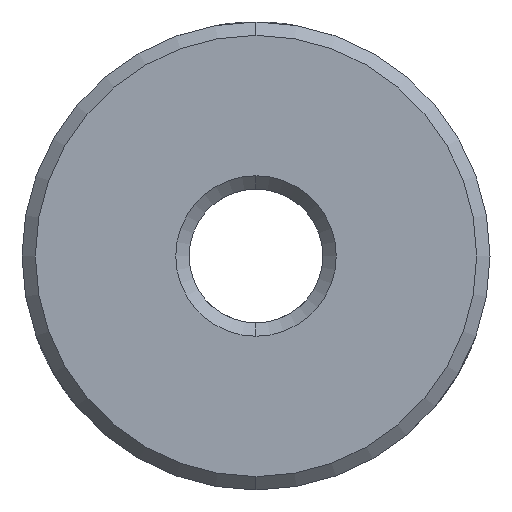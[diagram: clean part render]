
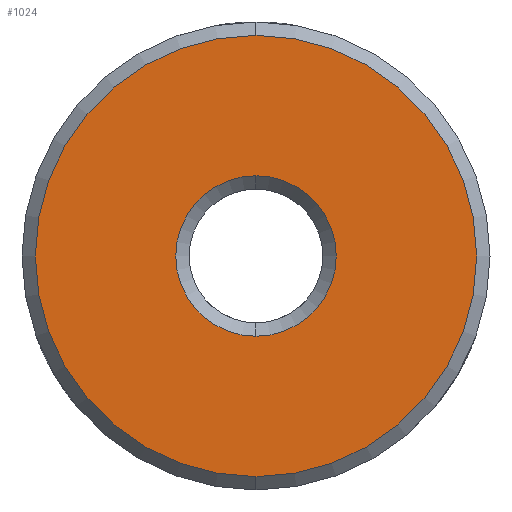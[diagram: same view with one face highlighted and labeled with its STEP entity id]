
A CAD part, left-side view. The second image highlights one B-rep face of the part: STEP entity #1024.
In plain terms, the highlighted planar face has unit normal (-1, 0, 0).
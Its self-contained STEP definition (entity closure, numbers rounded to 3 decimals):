
#61 = PLANE ( 'NONE',  #297 ) ;
#72 = CIRCLE ( 'NONE', #2207, 3. ) ;
#121 = DIRECTION ( 'NONE',  ( 0., 0., -1. ) ) ;
#179 = CARTESIAN_POINT ( 'NONE',  ( -14.25, 0., 0. ) ) ;
#188 = DIRECTION ( 'NONE',  ( 0., 0., -1. ) ) ;
#192 = DIRECTION ( 'NONE',  ( 0., 0., -1. ) ) ;
#253 = CARTESIAN_POINT ( 'NONE',  ( -14.25, 0., 0. ) ) ;
#283 = ORIENTED_EDGE ( 'NONE', *, *, #1341, .T. ) ;
#286 = DIRECTION ( 'NONE',  ( 1., 0., 0. ) ) ;
#297 = AXIS2_PLACEMENT_3D ( 'NONE', #1122, #1289, #192 ) ;
#374 = DIRECTION ( 'NONE',  ( 0., 0., -1. ) ) ;
#391 = CIRCLE ( 'NONE', #691, 3. ) ;
#451 = CARTESIAN_POINT ( 'NONE',  ( -14.25, 0., -8.25 ) ) ;
#555 = VERTEX_POINT ( 'NONE', #1202 ) ;
#583 = VERTEX_POINT ( 'NONE', #451 ) ;
#604 = DIRECTION ( 'NONE',  ( 1., 0., 0. ) ) ;
#633 = FACE_OUTER_BOUND ( 'NONE', #747, .T. ) ;
#648 = EDGE_CURVE ( 'NONE', #1263, #910, #72, .T. ) ;
#691 = AXIS2_PLACEMENT_3D ( 'NONE', #1022, #286, #121 ) ;
#747 = EDGE_LOOP ( 'NONE', ( #283, #1397 ) ) ;
#847 = EDGE_LOOP ( 'NONE', ( #1145, #2011 ) ) ;
#910 = VERTEX_POINT ( 'NONE', #2204 ) ;
#1022 = CARTESIAN_POINT ( 'NONE',  ( -14.25, 0., 0. ) ) ;
#1024 = ADVANCED_FACE ( 'NONE', ( #2056, #633 ), #61, .F. ) ;
#1122 = CARTESIAN_POINT ( 'NONE',  ( -14.25, 0., 0. ) ) ;
#1145 = ORIENTED_EDGE ( 'NONE', *, *, #648, .T. ) ;
#1202 = CARTESIAN_POINT ( 'NONE',  ( -14.25, 0., 8.25 ) ) ;
#1212 = EDGE_CURVE ( 'NONE', #910, #1263, #391, .T. ) ;
#1263 = VERTEX_POINT ( 'NONE', #1349 ) ;
#1289 = DIRECTION ( 'NONE',  ( 1., 0., 0. ) ) ;
#1341 = EDGE_CURVE ( 'NONE', #583, #555, #1579, .T. ) ;
#1349 = CARTESIAN_POINT ( 'NONE',  ( -14.25, 0., 3. ) ) ;
#1391 = AXIS2_PLACEMENT_3D ( 'NONE', #253, #1994, #188 ) ;
#1397 = ORIENTED_EDGE ( 'NONE', *, *, #1448, .T. ) ;
#1448 = EDGE_CURVE ( 'NONE', #555, #583, #1720, .T. ) ;
#1579 = CIRCLE ( 'NONE', #1851, 8.25 ) ;
#1707 = DIRECTION ( 'NONE',  ( 0., 0., -1. ) ) ;
#1720 = CIRCLE ( 'NONE', #1391, 8.25 ) ;
#1851 = AXIS2_PLACEMENT_3D ( 'NONE', #2099, #1911, #374 ) ;
#1911 = DIRECTION ( 'NONE',  ( -1., 0., 0. ) ) ;
#1994 = DIRECTION ( 'NONE',  ( -1., 0., 0. ) ) ;
#2011 = ORIENTED_EDGE ( 'NONE', *, *, #1212, .T. ) ;
#2056 = FACE_BOUND ( 'NONE', #847, .T. ) ;
#2099 = CARTESIAN_POINT ( 'NONE',  ( -14.25, 0., 0. ) ) ;
#2204 = CARTESIAN_POINT ( 'NONE',  ( -14.25, 0., -3. ) ) ;
#2207 = AXIS2_PLACEMENT_3D ( 'NONE', #179, #604, #1707 ) ;
